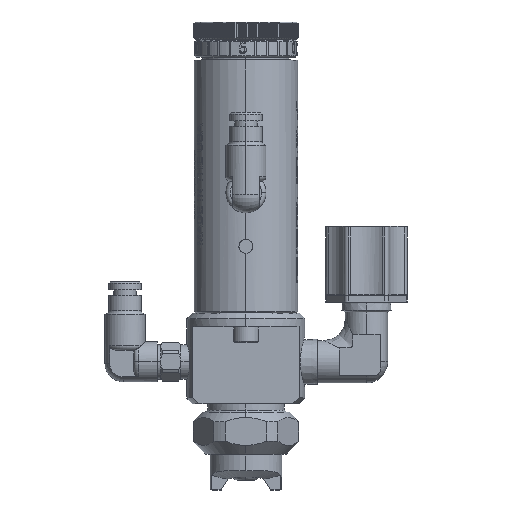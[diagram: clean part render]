
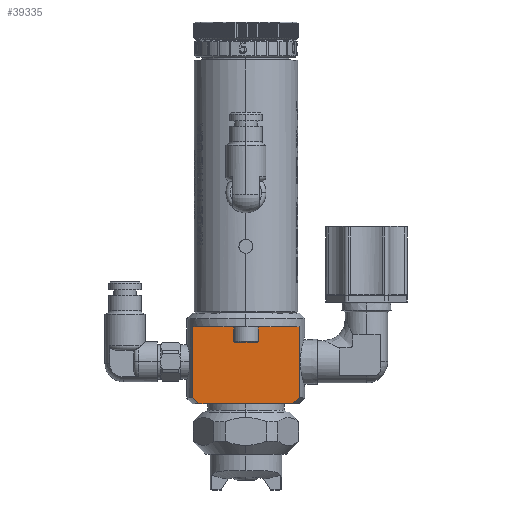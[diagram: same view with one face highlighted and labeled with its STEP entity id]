
A CAD part, top view. The second image highlights one B-rep face of the part: STEP entity #39335.
In plain terms, the highlighted planar face has unit normal (0, 0, 1).
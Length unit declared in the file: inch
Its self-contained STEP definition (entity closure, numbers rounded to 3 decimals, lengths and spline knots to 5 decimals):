
#2105 = CARTESIAN_POINT ( 'NONE',  ( -0.45887, -0.77878, 0.23 ) ) ;
#2307 = VECTOR ( 'NONE', #15111, 39.37008 ) ;
#2575 = DIRECTION ( 'NONE',  ( -1., 0., 0. ) ) ;
#3176 = VERTEX_POINT ( 'NONE', #23747 ) ;
#3440 = VECTOR ( 'NONE', #58122, 39.37008 ) ;
#4950 = VERTEX_POINT ( 'NONE', #53005 ) ;
#5565 = DIRECTION ( 'NONE',  ( 1., 0., 0. ) ) ;
#6251 = LINE ( 'NONE', #57851, #3440 ) ;
#9252 = FACE_OUTER_BOUND ( 'NONE', #55483, .T. ) ;
#9868 = DIRECTION ( 'NONE',  ( 0., 0., -1. ) ) ;
#9917 = LINE ( 'NONE', #72243, #74508 ) ;
#10053 = ORIENTED_EDGE ( 'NONE', *, *, #60225, .T. ) ;
#10710 = ORIENTED_EDGE ( 'NONE', *, *, #51276, .T. ) ;
#12203 = VERTEX_POINT ( 'NONE', #54069 ) ;
#12447 = CARTESIAN_POINT ( 'NONE',  ( 0.42131, -0.812, 0.23 ) ) ;
#13102 = VERTEX_POINT ( 'NONE', #35744 ) ;
#14577 = PLANE ( 'NONE',  #64448 ) ;
#15111 = DIRECTION ( 'NONE',  ( 0., 1., 0. ) ) ;
#16811 = EDGE_CURVE ( 'NONE', #56894, #3176, #6251, .T. ) ;
#18170 = ORIENTED_EDGE ( 'NONE', *, *, #78159, .T. ) ;
#18737 = ORIENTED_EDGE ( 'NONE', *, *, #42050, .F. ) ;
#19939 = LINE ( 'NONE', #57756, #76960 ) ;
#20249 = ORIENTED_EDGE ( 'NONE', *, *, #60083, .T. ) ;
#20944 = ORIENTED_EDGE ( 'NONE', *, *, #73394, .T. ) ;
#21718 = EDGE_CURVE ( 'NONE', #3176, #33932, #19939, .T. ) ;
#23747 = CARTESIAN_POINT ( 'NONE',  ( 0.47749, -0.125, 0.23 ) ) ;
#25996 = CARTESIAN_POINT ( 'NONE',  ( 0.45887, -0.77878, 0.23 ) ) ;
#26736 = CARTESIAN_POINT ( 'NONE',  ( -0.47749, -0.812, 0.23 ) ) ;
#27631 = CARTESIAN_POINT ( 'NONE',  ( -0.47749, -1.813, 0.23 ) ) ;
#30579 = LINE ( 'NONE', #42823, #51419 ) ;
#31341 = CARTESIAN_POINT ( 'NONE',  ( -0.25715, -0.812, 0.23 ) ) ;
#32365 = CARTESIAN_POINT ( 'NONE',  ( -0.42131, -0.812, 0.23 ) ) ;
#33932 = VERTEX_POINT ( 'NONE', #62971 ) ;
#35420 = VECTOR ( 'NONE', #76674, 39.37008 ) ;
#35744 = CARTESIAN_POINT ( 'NONE',  ( 0.42131, -0.812, 0.23 ) ) ;
#36243 = DIRECTION ( 'NONE',  ( 1., 0., 0. ) ) ;
#37261 = LINE ( 'NONE', #26736, #35420 ) ;
#39335 = ADVANCED_FACE ( 'NONE', ( #9252 ), #14577, .F. ) ;
#39853 = B_SPLINE_CURVE_WITH_KNOTS ( 'NONE', 3,
 ( #48527, #2105, #67203, #32365 ),
 .UNSPECIFIED., .F., .F.,
 ( 4, 4 ),
 ( 0.02012, 0.02203 ),
 .UNSPECIFIED. ) ;
#41917 = VERTEX_POINT ( 'NONE', #31341 ) ;
#42050 = EDGE_CURVE ( 'NONE', #51490, #33932, #50706, .T. ) ;
#42823 = CARTESIAN_POINT ( 'NONE',  ( -0.47749, -0.812, 0.23 ) ) ;
#43425 = CARTESIAN_POINT ( 'NONE',  ( 0.47749, -0.762, 0.23 ) ) ;
#46701 = DIRECTION ( 'NONE',  ( -1., 0., 0. ) ) ;
#48079 = ORIENTED_EDGE ( 'NONE', *, *, #16811, .T. ) ;
#48527 = CARTESIAN_POINT ( 'NONE',  ( -0.47749, -0.762, 0.23 ) ) ;
#49738 = CARTESIAN_POINT ( 'NONE',  ( -0.47749, -0.762, 0.23 ) ) ;
#50706 = LINE ( 'NONE', #27631, #2307 ) ;
#51276 = EDGE_CURVE ( 'NONE', #4950, #13102, #37261, .T. ) ;
#51419 = VECTOR ( 'NONE', #36243, 39.37008 ) ;
#51490 = VERTEX_POINT ( 'NONE', #49738 ) ;
#53005 = CARTESIAN_POINT ( 'NONE',  ( 0.25715, -0.812, 0.23 ) ) ;
#54069 = CARTESIAN_POINT ( 'NONE',  ( -0.42131, -0.812, 0.23 ) ) ;
#55483 = EDGE_LOOP ( 'NONE', ( #10053, #20249, #18170, #10710, #20944, #48079, #60375, #18737 ) ) ;
#56201 = CARTESIAN_POINT ( 'NONE',  ( 0.44015, -0.79546, 0.23 ) ) ;
#56894 = VERTEX_POINT ( 'NONE', #63401 ) ;
#57756 = CARTESIAN_POINT ( 'NONE',  ( -0.47749, -0.125, 0.23 ) ) ;
#57851 = CARTESIAN_POINT ( 'NONE',  ( 0.47749, -1.813, 0.23 ) ) ;
#58122 = DIRECTION ( 'NONE',  ( 0., 1., 0. ) ) ;
#60083 = EDGE_CURVE ( 'NONE', #12203, #41917, #9917, .T. ) ;
#60225 = EDGE_CURVE ( 'NONE', #51490, #12203, #39853, .T. ) ;
#60375 = ORIENTED_EDGE ( 'NONE', *, *, #21718, .T. ) ;
#62971 = CARTESIAN_POINT ( 'NONE',  ( -0.47749, -0.125, 0.23 ) ) ;
#63401 = CARTESIAN_POINT ( 'NONE',  ( 0.47749, -0.762, 0.23 ) ) ;
#64448 = AXIS2_PLACEMENT_3D ( 'NONE', #70946, #9868, #46701 ) ;
#65121 = B_SPLINE_CURVE_WITH_KNOTS ( 'NONE', 3,
 ( #12447, #56201, #25996, #43425 ),
 .UNSPECIFIED., .F., .F.,
 ( 4, 4 ),
 ( 0.04739, 0.04931 ),
 .UNSPECIFIED. ) ;
#67203 = CARTESIAN_POINT ( 'NONE',  ( -0.44015, -0.79546, 0.23 ) ) ;
#70946 = CARTESIAN_POINT ( 'NONE',  ( -0.47749, -1.813, 0.23 ) ) ;
#72243 = CARTESIAN_POINT ( 'NONE',  ( -0.47749, -0.812, 0.23 ) ) ;
#73394 = EDGE_CURVE ( 'NONE', #13102, #56894, #65121, .T. ) ;
#74508 = VECTOR ( 'NONE', #5565, 39.37008 ) ;
#76674 = DIRECTION ( 'NONE',  ( 1., 0., 0. ) ) ;
#76960 = VECTOR ( 'NONE', #2575, 39.37008 ) ;
#78159 = EDGE_CURVE ( 'NONE', #41917, #4950, #30579, .T. ) ;
